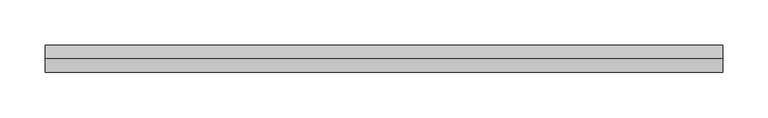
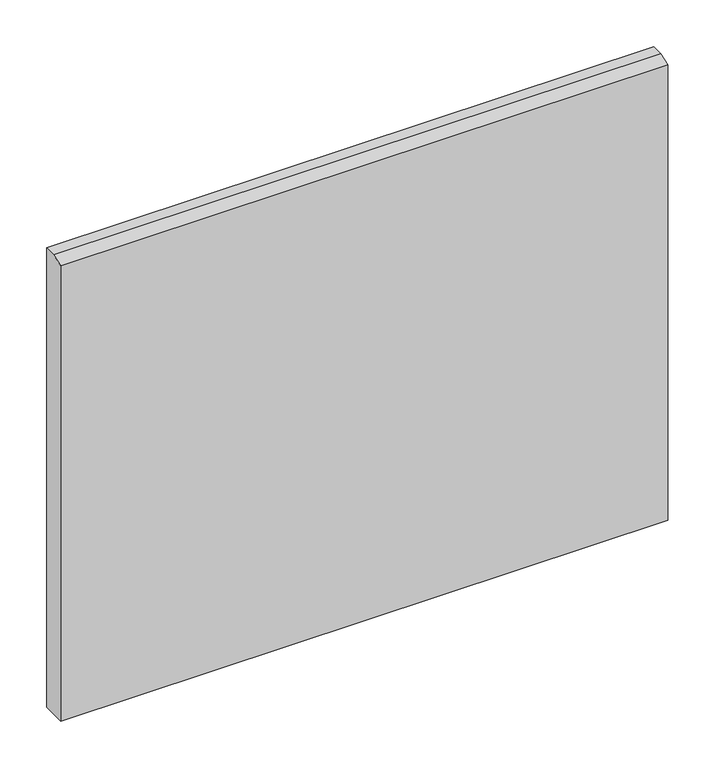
"""IFC4 building model written with IfcOpenShell, lengths in millimetres: proxy geometry, 400_35_NS_gevelplint : 30 mm dik."""

from ifc_helpers import new_model, si_unit, frame, origin, place, context, project, spatial, polyline, outline, extrude, source, transform, mapped, element, save


def generic_models_0f2e3a4e(model_context):
    return source(origin(), model_context, "Body", "SweptSolid", [
        extrude(outline(polyline([(30.0, 0.0), (0.0, 0.0), (0.0, 595.0), (15.0, 600.0), (30.0, 600.0), (30.0, 0.0)])), frame((-375.0, 0.0, 0.0), z_axis=(1.0, 0.0, 0.0), x_axis=(0.0, 1.0, 0.0)), (0.0, 0.0, 1.0), 750.0),
    ])


if __name__ == "__main__":
    model = new_model("IFC4")
    model_context = context("Model", 3, world=origin())
    ifc_project = project(units=[si_unit("LENGTHUNIT", "METRE", prefix="MILLI")], contexts=[model_context])
    site = spatial("IfcSite", under=ifc_project)
    building = spatial("IfcBuilding", under=site)
    placement = place(None, origin())
    generic_models_shape = generic_models_0f2e3a4e(model_context)
    element("IfcBuildingElementProxy", 1, Name="400_35_NS_gevelplint : 30 mm dik", ObjectType="400_35_NS_gevelplint : 30 mm dik", at=placement, inside=building, context=model_context, shape_type="MappedRepresentation", body=[
        mapped(generic_models_shape, transform((0.0, 0.0, 0.0), x_axis=(1.0, 0.0, 0.0), y_axis=(0.0, 1.0, 0.0), z_axis=(0.0, 0.0, 1.0))),
    ])
    save(model, "model.ifc")
